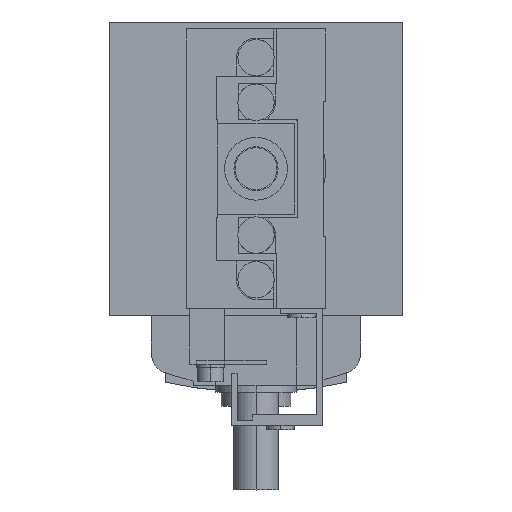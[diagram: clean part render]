
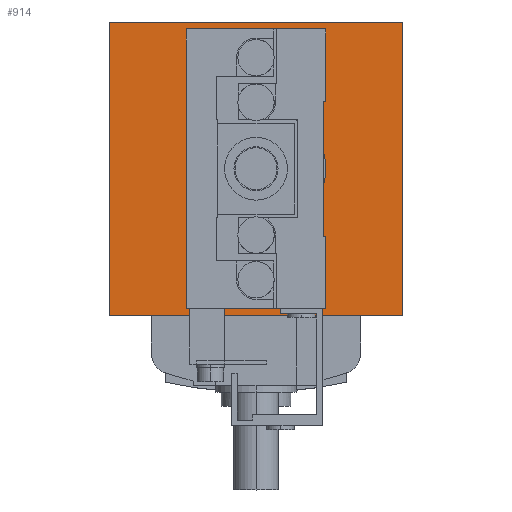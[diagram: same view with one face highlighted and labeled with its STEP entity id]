
A CAD part, left-side view. The second image highlights one B-rep face of the part: STEP entity #914.
In plain terms, the highlighted planar face has unit normal (-1, 0, 0).
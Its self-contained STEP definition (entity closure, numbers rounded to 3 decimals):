
#914=ADVANCED_FACE('',(#2204,#2205),#2206,.F.);
#2204=FACE_BOUND('',#3504,.T.);
#2205=FACE_OUTER_BOUND('',#3505,.T.);
#2206=PLANE('',#3506);
#3504=EDGE_LOOP('',(#8268,#8269,#8270,#8271,#8272,#8273,#8274,#8275,#8276,#8277,#8278,#8279,#8280,#8281,#8282,#8283));
#3505=EDGE_LOOP('',(#8284,#8285,#8286,#8287));
#3506=AXIS2_PLACEMENT_3D('',#8288,#8289,#8290);
#8268=ORIENTED_EDGE('',*,*,#9747,.F.);
#8269=ORIENTED_EDGE('',*,*,#9671,.F.);
#8270=ORIENTED_EDGE('',*,*,#9758,.F.);
#8271=ORIENTED_EDGE('',*,*,#9779,.T.);
#8272=ORIENTED_EDGE('',*,*,#9628,.F.);
#8273=ORIENTED_EDGE('',*,*,#9807,.F.);
#8274=ORIENTED_EDGE('',*,*,#9748,.F.);
#8275=ORIENTED_EDGE('',*,*,#9836,.F.);
#8276=ORIENTED_EDGE('',*,*,#9731,.T.);
#8277=ORIENTED_EDGE('',*,*,#9804,.F.);
#8278=ORIENTED_EDGE('',*,*,#9638,.T.);
#8279=ORIENTED_EDGE('',*,*,#9679,.T.);
#8280=ORIENTED_EDGE('',*,*,#9716,.F.);
#8281=ORIENTED_EDGE('',*,*,#9767,.F.);
#8282=ORIENTED_EDGE('',*,*,#9732,.T.);
#8283=ORIENTED_EDGE('',*,*,#9534,.F.);
#8284=ORIENTED_EDGE('',*,*,#9828,.F.);
#8285=ORIENTED_EDGE('',*,*,#9811,.F.);
#8286=ORIENTED_EDGE('',*,*,#9822,.F.);
#8287=ORIENTED_EDGE('',*,*,#9824,.F.);
#8288=CARTESIAN_POINT('',(57.5,-11.,21.));
#8289=DIRECTION('',(1.0,0.0,0.));
#8290=DIRECTION('',(0.0,-1.0,0.0));
#9534=EDGE_CURVE('',#11803,#11799,#11805,.F.);
#9628=EDGE_CURVE('',#11982,#11983,#11984,.T.);
#9638=EDGE_CURVE('',#12002,#12003,#12004,.T.);
#9671=EDGE_CURVE('',#12059,#12060,#12061,.T.);
#9679=EDGE_CURVE('',#12003,#12073,#12075,.T.);
#9716=EDGE_CURVE('',#12129,#12073,#12131,.T.);
#9731=EDGE_CURVE('',#11799,#12151,#12153,.T.);
#9732=EDGE_CURVE('',#12154,#11799,#12155,.T.);
#9747=EDGE_CURVE('',#12060,#11803,#12176,.T.);
#9748=EDGE_CURVE('',#11803,#12177,#12178,.T.);
#9758=EDGE_CURVE('',#12191,#12059,#12193,.T.);
#9767=EDGE_CURVE('',#12154,#12129,#12206,.T.);
#9779=EDGE_CURVE('',#12191,#11983,#12222,.T.);
#9804=EDGE_CURVE('',#12002,#12151,#12252,.T.);
#9807=EDGE_CURVE('',#12177,#11982,#12255,.T.);
#9811=EDGE_CURVE('',#12259,#12260,#12261,.T.);
#9822=EDGE_CURVE('',#12276,#12259,#12277,.T.);
#9824=EDGE_CURVE('',#12279,#12276,#12280,.T.);
#9828=EDGE_CURVE('',#12260,#12279,#12284,.T.);
#9836=EDGE_CURVE('',#11799,#11803,#12292,.F.);
#11799=VERTEX_POINT('',#15087);
#11803=VERTEX_POINT('',#15092);
#11805=CIRCLE('',#15095,10.);
#11982=VERTEX_POINT('',#15312);
#11983=VERTEX_POINT('',#15313);
#11984=LINE('',#15314,#15315);
#12002=VERTEX_POINT('',#15342);
#12003=VERTEX_POINT('',#15343);
#12004=LINE('',#15344,#15345);
#12059=VERTEX_POINT('',#15427);
#12060=VERTEX_POINT('',#15428);
#12061=LINE('',#15429,#15430);
#12073=VERTEX_POINT('',#15447);
#12075=LINE('',#15450,#15451);
#12129=VERTEX_POINT('',#15529);
#12131=LINE('',#15532,#15533);
#12151=VERTEX_POINT('',#15563);
#12153=LINE('',#15566,#15567);
#12154=VERTEX_POINT('',#15568);
#12155=LINE('',#15569,#15570);
#12176=LINE('',#15605,#15606);
#12177=VERTEX_POINT('',#15607);
#12178=LINE('',#15608,#15609);
#12191=VERTEX_POINT('',#15629);
#12193=LINE('',#15632,#15633);
#12206=LINE('',#15653,#15654);
#12222=LINE('',#15681,#15682);
#12252=LINE('',#15732,#15733);
#12255=LINE('',#15737,#15738);
#12259=VERTEX_POINT('',#15743);
#12260=VERTEX_POINT('',#15744);
#12261=LINE('',#15745,#15746);
#12276=VERTEX_POINT('',#15767);
#12277=LINE('',#15768,#15769);
#12279=VERTEX_POINT('',#15772);
#12280=LINE('',#15773,#15774);
#12284=LINE('',#15779,#15780);
#12292=CIRCLE('',#15788,10.);
#15087=CARTESIAN_POINT('',(57.5,10.0,10.));
#15092=CARTESIAN_POINT('',(57.5,10.0,-10.));
#15095=AXIS2_PLACEMENT_3D('',#17806,#17807,#17808);
#15312=CARTESIAN_POINT('',(57.5,18.5,-20.0));
#15313=CARTESIAN_POINT('',(57.5,1.5,-20.0));
#15314=CARTESIAN_POINT('',(57.5,223.901,-20.0));
#15315=VECTOR('',#18008,1000.0);
#15342=CARTESIAN_POINT('',(57.5,18.5,20.0));
#15343=CARTESIAN_POINT('',(57.5,1.5,20.0));
#15344=CARTESIAN_POINT('',(57.5,19.5,20.0));
#15345=VECTOR('',#18018,1000.0);
#15427=CARTESIAN_POINT('',(57.5,7.75,-14.25));
#15428=CARTESIAN_POINT('',(57.5,7.75,-10.0));
#15429=CARTESIAN_POINT('',(57.5,7.75,-14.25));
#15430=VECTOR('',#18061,1000.0);
#15447=CARTESIAN_POINT('',(57.5,1.5,14.25));
#15450=CARTESIAN_POINT('',(57.5,1.5,20.0));
#15451=VECTOR('',#18071,1000.0);
#15529=CARTESIAN_POINT('',(57.5,7.75,14.25));
#15532=CARTESIAN_POINT('',(57.5,7.75,14.25));
#15533=VECTOR('',#18130,1000.0);
#15563=CARTESIAN_POINT('',(57.5,18.5,10.0));
#15566=CARTESIAN_POINT('',(57.5,19.5,10.0));
#15567=VECTOR('',#18151,1000.0);
#15568=CARTESIAN_POINT('',(57.5,7.75,10.0));
#15569=CARTESIAN_POINT('',(57.5,19.5,10.0));
#15570=VECTOR('',#18152,1000.0);
#15605=CARTESIAN_POINT('',(57.5,7.75,-10.0));
#15606=VECTOR('',#18167,1000.0);
#15607=CARTESIAN_POINT('',(57.5,18.5,-10.0));
#15608=CARTESIAN_POINT('',(57.5,7.75,-10.0));
#15609=VECTOR('',#18168,1000.0);
#15629=CARTESIAN_POINT('',(57.5,1.5,-14.25));
#15632=CARTESIAN_POINT('',(57.5,0.5,-14.25));
#15633=VECTOR('',#18180,1000.0);
#15653=CARTESIAN_POINT('',(57.5,7.75,10.0));
#15654=VECTOR('',#18191,1000.0);
#15681=CARTESIAN_POINT('',(57.5,1.5,20.0));
#15682=VECTOR('',#18203,1000.0);
#15732=CARTESIAN_POINT('',(57.5,18.5,20.0));
#15733=VECTOR('',#18236,1000.0);
#15737=CARTESIAN_POINT('',(57.5,18.5,20.0));
#15738=VECTOR('',#18241,1000.0);
#15743=CARTESIAN_POINT('',(57.5,31.,-21.));
#15744=CARTESIAN_POINT('',(57.5,31.,21.));
#15745=CARTESIAN_POINT('',(57.5,31.,-21.));
#15746=VECTOR('',#18249,1000.0);
#15767=CARTESIAN_POINT('',(57.5,-11.,-21.));
#15768=CARTESIAN_POINT('',(57.5,-11.,-21.));
#15769=VECTOR('',#18268,1000.0);
#15772=CARTESIAN_POINT('',(57.5,-11.,21.));
#15773=CARTESIAN_POINT('',(57.5,-11.,21.));
#15774=VECTOR('',#18270,1000.0);
#15779=CARTESIAN_POINT('',(57.5,31.,21.));
#15780=VECTOR('',#18278,1000.0);
#15788=AXIS2_PLACEMENT_3D('',#18300,#18301,#18302);
#17806=CARTESIAN_POINT('',(57.5,10.0,0.));
#17807=DIRECTION('',(1.0,0.0,0.));
#17808=DIRECTION('',(0.,0.0,-1.0));
#18008=DIRECTION('',(0.0,-1.0,0.0));
#18018=DIRECTION('',(0.0,-1.0,0.0));
#18061=DIRECTION('',(0.0,0.0,1.0));
#18071=DIRECTION('',(0.0,0.0,-1.0));
#18130=DIRECTION('',(0.0,-1.0,0.0));
#18151=DIRECTION('',(0.0,1.0,0.0));
#18152=DIRECTION('',(0.0,1.0,0.0));
#18167=DIRECTION('',(0.0,1.0,0.0));
#18168=DIRECTION('',(0.0,1.0,0.0));
#18180=DIRECTION('',(0.0,1.0,0.0));
#18191=DIRECTION('',(0.0,0.0,1.0));
#18203=DIRECTION('',(0.0,0.0,-1.0));
#18236=DIRECTION('',(0.0,0.0,-1.0));
#18241=DIRECTION('',(0.0,0.0,-1.0));
#18249=DIRECTION('',(0.,0.0,1.0));
#18268=DIRECTION('',(0.0,1.0,0.0));
#18270=DIRECTION('',(0.,0.0,-1.0));
#18278=DIRECTION('',(0.0,-1.0,0.0));
#18300=CARTESIAN_POINT('',(57.5,10.0,0.));
#18301=DIRECTION('',(1.0,0.0,0.));
#18302=DIRECTION('',(0.,0.0,-1.0));
